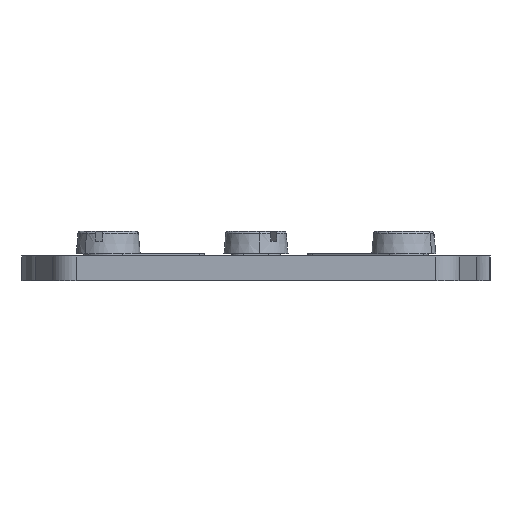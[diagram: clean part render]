
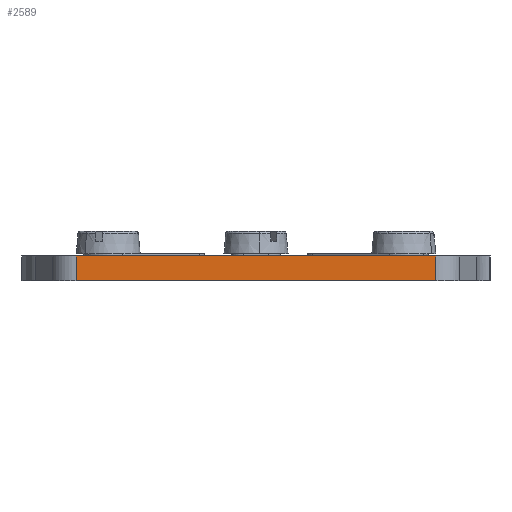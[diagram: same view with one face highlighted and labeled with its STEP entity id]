
A CAD part, front view. The second image highlights one B-rep face of the part: STEP entity #2589.
In plain terms, the highlighted planar face has unit normal (0, -1, 0).
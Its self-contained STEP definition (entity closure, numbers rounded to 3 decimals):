
#2576=AXIS2_PLACEMENT_3D('Plane Axis2P3D',#2573,#2574,#2575) ;
#1483=CARTESIAN_POINT('Vertex',(-7.299,0.,0.5)) ;
#1486=CARTESIAN_POINT('Line Origine',(0.,0.,0.5)) ;
#1490=CARTESIAN_POINT('Vertex',(7.299,0.,0.5)) ;
#1738=CARTESIAN_POINT('Vertex',(7.299,0.,-0.5)) ;
#1741=CARTESIAN_POINT('Line Origine',(0.,0.,-0.5)) ;
#1745=CARTESIAN_POINT('Vertex',(-7.299,0.,-0.5)) ;
#2561=CARTESIAN_POINT('Line Origine',(-7.299,0.,0.)) ;
#2573=CARTESIAN_POINT('Axis2P3D Location',(-9.5,0.,0.)) ;
#2578=CARTESIAN_POINT('Line Origine',(7.299,0.,0.)) ;
#1487=DIRECTION('Vector Direction',(1.,0.,0.)) ;
#1742=DIRECTION('Vector Direction',(1.,0.,0.)) ;
#2562=DIRECTION('Vector Direction',(0.,0.,1.)) ;
#2574=DIRECTION('Axis2P3D Direction',(0.,-1.,0.)) ;
#2575=DIRECTION('Axis2P3D XDirection',(1.,0.,0.)) ;
#2579=DIRECTION('Vector Direction',(0.,0.,-1.)) ;
#1488=VECTOR('Line Direction',#1487,1.) ;
#1743=VECTOR('Line Direction',#1742,1.) ;
#2563=VECTOR('Line Direction',#2562,1.) ;
#2580=VECTOR('Line Direction',#2579,1.) ;
#2584=ORIENTED_EDGE('',*,*,#1492,.T.) ;
#2585=ORIENTED_EDGE('',*,*,#2565,.T.) ;
#2586=ORIENTED_EDGE('',*,*,#1747,.F.) ;
#2587=ORIENTED_EDGE('',*,*,#2582,.F.) ;
#2589=ADVANCED_FACE('Hauptk\X2\00F6\X0\rper',(#2588),#2577,.T.) ;
#1492=EDGE_CURVE('',#1491,#1484,#1489,.F.) ;
#1747=EDGE_CURVE('',#1739,#1746,#1744,.F.) ;
#2565=EDGE_CURVE('',#1484,#1746,#2564,.F.) ;
#2582=EDGE_CURVE('',#1491,#1739,#2581,.T.) ;
#2583=EDGE_LOOP('',(#2584,#2585,#2586,#2587)) ;
#2588=FACE_OUTER_BOUND('',#2583,.T.) ;
#1489=LINE('Line',#1486,#1488) ;
#1744=LINE('Line',#1741,#1743) ;
#2564=LINE('Line',#2561,#2563) ;
#2581=LINE('Line',#2578,#2580) ;
#2577=PLANE('',#2576) ;
#1484=VERTEX_POINT('',#1483) ;
#1491=VERTEX_POINT('',#1490) ;
#1739=VERTEX_POINT('',#1738) ;
#1746=VERTEX_POINT('',#1745) ;
